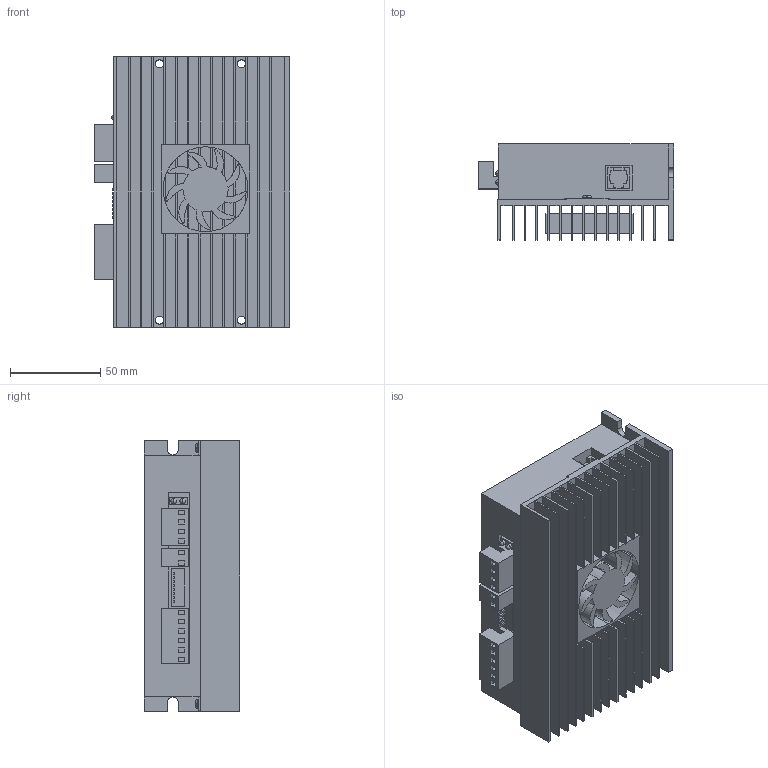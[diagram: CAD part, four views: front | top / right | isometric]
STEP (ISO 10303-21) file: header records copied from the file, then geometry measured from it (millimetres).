
FILE_DESCRIPTION (( 'STEP AP203' ), '1' );
FILE_NAME ('DM860H.STEP', '2023-12-15T05:29:08', ( '' ), ( '' ), 'SwSTEP 2.0', 'SolidWorks 2020', '' );
FILE_SCHEMA (( 'CONFIG_CONTROL_DESIGN' ));
Length unit declared in the file: millimetre
Products named in the file (1): DM860H
Bounding box: 108.5 x 53 x 150 mm (x, y, z)
Volume: 513343.7 mm3; surface area: 140423.1 mm2
Topology: 2 solids, 2 shells, 548 faces, 1537 edges, 980 vertices
Faces by surface type: plane 450, cylinder 72, bspline 18, sphere 4, torus 4
Entity records: 17765 total; most frequent: CARTESIAN_POINT 3586, ORIENTED_EDGE 3058, DIRECTION 2724, EDGE_CURVE 1529, VECTOR 1216, LINE 1216, VERTEX_POINT 976, AXIS2_PLACEMENT_3D 754
